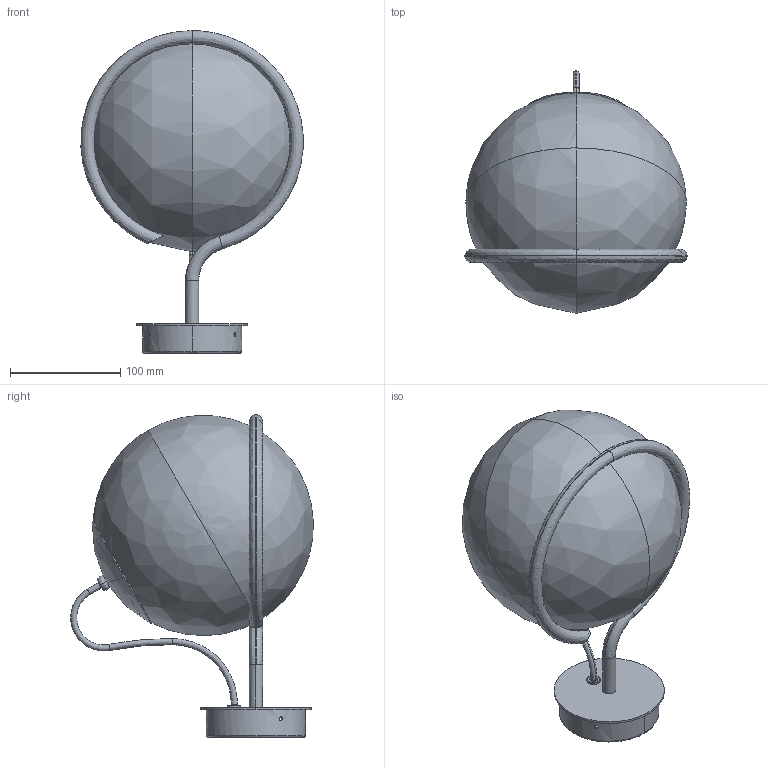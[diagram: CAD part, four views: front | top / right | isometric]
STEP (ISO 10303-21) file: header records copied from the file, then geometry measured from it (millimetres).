
FILE_DESCRIPTION(/* description */ (''),/* implementation_level */ '2;1');
FILE_NAME(/* name */ 'Model 238:1',/* time_stamp */ '2018-08-09T14:32:27+02:00',/* author */ (''),/* organization */ (''),/* preprocessor_version */ 'ST-DEVELOPER v15',/* originating_system */ '',/* authorisation */ '');
FILE_SCHEMA (('AUTOMOTIVE_DESIGN'));
Length unit declared in the file: millimetre
Products named in the file (1): Document
Bounding box: 201.62 x 220.25 x 293 mm (x, y, z)
Volume: 528918.8 mm3; surface area: 341067.2 mm2
Topology: 8 solids, 8 shells, 126 faces, 301 edges, 183 vertices
Faces by surface type: bspline 110, plane 16
Entity records: 8410 total; most frequent: CARTESIAN_POINT 6687, ORIENTED_EDGE 586, EDGE_CURVE 293, VERTEX_POINT 183, EDGE_LOOP 148, ADVANCED_FACE 126, FACE_OUTER_BOUND 126, B_SPLINE_CURVE_WITH_KNOTS 80
